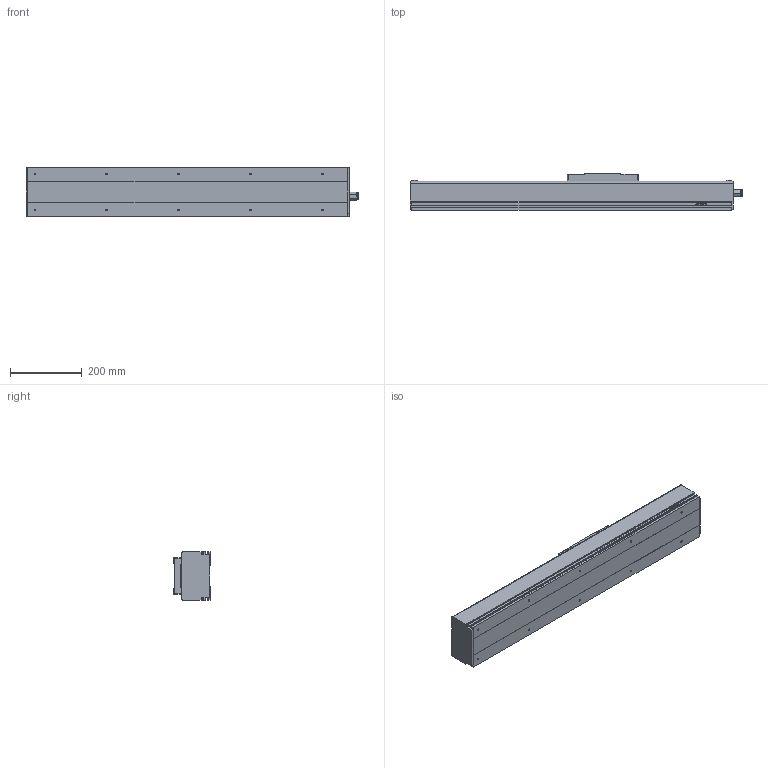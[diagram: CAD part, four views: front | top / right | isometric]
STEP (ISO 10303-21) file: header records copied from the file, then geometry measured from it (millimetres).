
FILE_DESCRIPTION(/* description */ (''),/* implementation_level */ '2;1');
FILE_NAME(/* name */ 'D:\混合母檔20191031\混和母檔\混和母檔\bin\Debug\Download\3D\KS140-20C-400AFI\KS140-20C-400AFI.stp',/* time_stamp */ '2019-11-04T15:37:37+08:00',/* author */ ('user'),/* organization */ (''),/* preprocessor_version */ 'ST-DEVELOPER v16.13',/* originating_system */ 'Autodesk Inventor 2018',/* authorisation */ '');
FILE_SCHEMA (('AUTOMOTIVE_DESIGN { 1 0 10303 214 3 1 1 }'));
Length unit declared in the file: millimetre
Products named in the file (3): KS140-20C-400AFI; KS140-FI-BP; KS140-SL
Assembly tree (2 placements, depth 2):
  KS140-20C-400AFI
    KS140-FI-BP
    KS140-SL
Bounding box: 924.5 x 101 x 136 mm (x, y, z)
Volume: 3613706.9 mm3; surface area: 932361.5 mm2
Topology: 4 solids, 8 shells, 679 faces, 1865 edges, 1225 vertices
Faces by surface type: plane 373, bspline 136, cylinder 78, cone 72, torus 16, sphere 4
Full cylindrical faces by diameter (mm): 3.571 x8, 4 x4, 4.134 x4, 4.3 x4, 4.917 x14, 6 x2, 8 x3, 8.4 x4, 12 x2, 13.1 x1, 15 x1, 18.75 x2, 46 x1, 50 x1
Entity records: 21977 total; most frequent: CARTESIAN_POINT 5905, ORIENTED_EDGE 3452, DIRECTION 2803, EDGE_CURVE 1725, VERTEX_POINT 1180, LINE 1143, VECTOR 1143, AXIS2_PLACEMENT_3D 830
